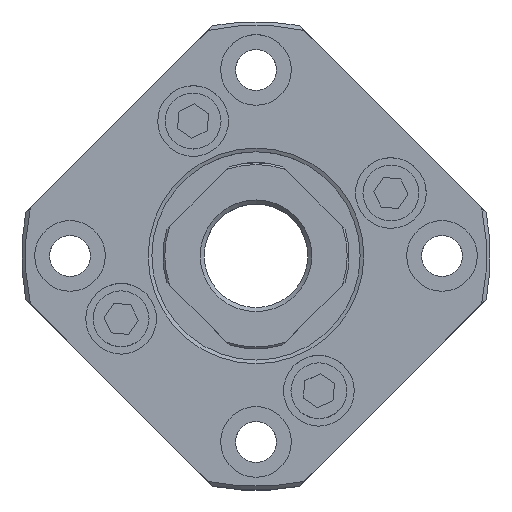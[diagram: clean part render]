
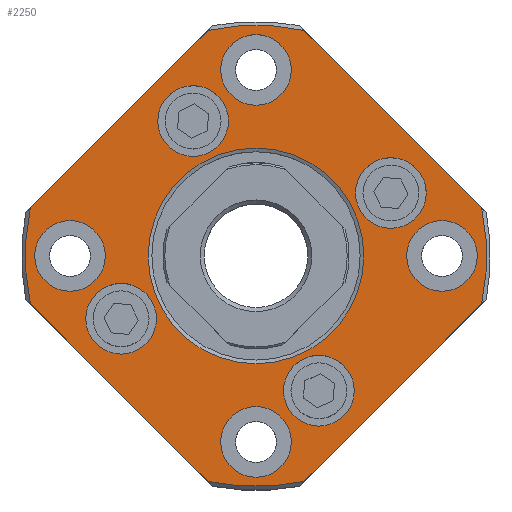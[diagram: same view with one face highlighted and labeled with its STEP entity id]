
A CAD part, top view. The second image highlights one B-rep face of the part: STEP entity #2250.
In plain terms, the highlighted planar face has unit normal (0, 0, 1) as drawn and (-1, 0, 0) by its records, which use the part's own axes.
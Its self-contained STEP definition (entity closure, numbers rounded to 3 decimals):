
#170=LINE('',#3469,#324);
#174=LINE('',#3488,#328);
#178=LINE('',#3507,#332);
#182=LINE('',#3526,#336);
#324=VECTOR('',#2750,1000.);
#328=VECTOR('',#2756,1000.);
#332=VECTOR('',#2762,1000.);
#336=VECTOR('',#2768,1000.);
#506=ORIENTED_EDGE('',*,*,#1110,.T.);
#507=ORIENTED_EDGE('',*,*,#1111,.T.);
#508=ORIENTED_EDGE('',*,*,#1112,.T.);
#509=ORIENTED_EDGE('',*,*,#1113,.T.);
#510=ORIENTED_EDGE('',*,*,#1114,.T.);
#511=ORIENTED_EDGE('',*,*,#1115,.T.);
#512=ORIENTED_EDGE('',*,*,#1116,.T.);
#513=ORIENTED_EDGE('',*,*,#1117,.T.);
#514=ORIENTED_EDGE('',*,*,#1118,.T.);
#515=ORIENTED_EDGE('',*,*,#1107,.F.);
#516=ORIENTED_EDGE('',*,*,#1119,.F.);
#517=ORIENTED_EDGE('',*,*,#1101,.F.);
#518=ORIENTED_EDGE('',*,*,#1120,.F.);
#519=ORIENTED_EDGE('',*,*,#1095,.F.);
#520=ORIENTED_EDGE('',*,*,#1121,.F.);
#521=ORIENTED_EDGE('',*,*,#1089,.F.);
#522=ORIENTED_EDGE('',*,*,#1122,.F.);
#1089=EDGE_CURVE('',#1391,#1392,#170,.T.);
#1095=EDGE_CURVE('',#1397,#1398,#174,.T.);
#1101=EDGE_CURVE('',#1403,#1404,#178,.T.);
#1107=EDGE_CURVE('',#1409,#1410,#182,.T.);
#1110=EDGE_CURVE('',#1412,#1412,#1588,.T.);
#1111=EDGE_CURVE('',#1413,#1413,#1589,.T.);
#1112=EDGE_CURVE('',#1414,#1414,#1590,.T.);
#1113=EDGE_CURVE('',#1415,#1415,#1591,.T.);
#1114=EDGE_CURVE('',#1416,#1416,#1592,.T.);
#1115=EDGE_CURVE('',#1417,#1417,#1593,.T.);
#1116=EDGE_CURVE('',#1418,#1418,#1594,.T.);
#1117=EDGE_CURVE('',#1419,#1419,#1595,.T.);
#1118=EDGE_CURVE('',#1420,#1420,#1596,.T.);
#1119=EDGE_CURVE('',#1404,#1409,#1597,.T.);
#1120=EDGE_CURVE('',#1398,#1403,#1598,.T.);
#1121=EDGE_CURVE('',#1392,#1397,#1599,.T.);
#1122=EDGE_CURVE('',#1410,#1391,#1600,.T.);
#1391=VERTEX_POINT('',#3468);
#1392=VERTEX_POINT('',#3470);
#1397=VERTEX_POINT('',#3487);
#1398=VERTEX_POINT('',#3489);
#1403=VERTEX_POINT('',#3506);
#1404=VERTEX_POINT('',#3508);
#1409=VERTEX_POINT('',#3525);
#1410=VERTEX_POINT('',#3527);
#1412=VERTEX_POINT('',#3536);
#1413=VERTEX_POINT('',#3538);
#1414=VERTEX_POINT('',#3540);
#1415=VERTEX_POINT('',#3542);
#1416=VERTEX_POINT('',#3544);
#1417=VERTEX_POINT('',#3546);
#1418=VERTEX_POINT('',#3548);
#1419=VERTEX_POINT('',#3550);
#1420=VERTEX_POINT('',#3552);
#1588=CIRCLE('',#2445,4.75);
#1589=CIRCLE('',#2446,4.75);
#1590=CIRCLE('',#2447,4.75);
#1591=CIRCLE('',#2448,4.75);
#1592=CIRCLE('',#2449,4.75);
#1593=CIRCLE('',#2450,4.75);
#1594=CIRCLE('',#2451,4.75);
#1595=CIRCLE('',#2452,4.75);
#1596=CIRCLE('',#2453,14.5);
#1597=CIRCLE('',#2454,31.);
#1598=CIRCLE('',#2455,31.);
#1599=CIRCLE('',#2456,31.);
#1600=CIRCLE('',#2457,31.);
#1710=EDGE_LOOP('',(#506));
#1711=EDGE_LOOP('',(#507));
#1712=EDGE_LOOP('',(#508));
#1713=EDGE_LOOP('',(#509));
#1714=EDGE_LOOP('',(#510));
#1715=EDGE_LOOP('',(#511));
#1716=EDGE_LOOP('',(#512));
#1717=EDGE_LOOP('',(#513));
#1718=EDGE_LOOP('',(#514));
#1719=EDGE_LOOP('',(#515,#516,#517,#518,#519,#520,#521,#522));
#1942=FACE_BOUND('',#1710,.T.);
#1943=FACE_BOUND('',#1711,.T.);
#1944=FACE_BOUND('',#1712,.T.);
#1945=FACE_BOUND('',#1713,.T.);
#1946=FACE_BOUND('',#1714,.T.);
#1947=FACE_BOUND('',#1715,.T.);
#1948=FACE_BOUND('',#1716,.T.);
#1949=FACE_BOUND('',#1717,.T.);
#1950=FACE_BOUND('',#1718,.T.);
#1951=FACE_BOUND('',#1719,.T.);
#2169=PLANE('',#2444);
#2250=ADVANCED_FACE('',(#1942,#1943,#1944,#1945,#1946,#1947,#1948,#1949,
#1950,#1951),#2169,.F.);
#2444=AXIS2_PLACEMENT_3D('',#3534,#2770,#2771);
#2445=AXIS2_PLACEMENT_3D('',#3535,#2772,#2773);
#2446=AXIS2_PLACEMENT_3D('',#3537,#2774,#2775);
#2447=AXIS2_PLACEMENT_3D('',#3539,#2776,#2777);
#2448=AXIS2_PLACEMENT_3D('',#3541,#2778,#2779);
#2449=AXIS2_PLACEMENT_3D('',#3543,#2780,#2781);
#2450=AXIS2_PLACEMENT_3D('',#3545,#2782,#2783);
#2451=AXIS2_PLACEMENT_3D('',#3547,#2784,#2785);
#2452=AXIS2_PLACEMENT_3D('',#3549,#2786,#2787);
#2453=AXIS2_PLACEMENT_3D('',#3551,#2788,#2789);
#2454=AXIS2_PLACEMENT_3D('',#3553,#2790,#2791);
#2455=AXIS2_PLACEMENT_3D('',#3554,#2792,#2793);
#2456=AXIS2_PLACEMENT_3D('',#3555,#2794,#2795);
#2457=AXIS2_PLACEMENT_3D('',#3556,#2796,#2797);
#2750=DIRECTION('',(0.,-0.707,-0.707));
#2756=DIRECTION('',(0.,0.707,-0.707));
#2762=DIRECTION('',(0.,0.707,0.707));
#2768=DIRECTION('',(0.,-0.707,0.707));
#2770=DIRECTION('',(1.,0.,0.));
#2771=DIRECTION('',(0.,0.,-1.));
#2772=DIRECTION('',(1.,0.,0.));
#2773=DIRECTION('',(0.,0.,-1.));
#2774=DIRECTION('',(1.,0.,0.));
#2775=DIRECTION('',(0.,0.,-1.));
#2776=DIRECTION('',(1.,0.,0.));
#2777=DIRECTION('',(0.,0.,-1.));
#2778=DIRECTION('',(1.,0.,0.));
#2779=DIRECTION('',(0.,0.,-1.));
#2780=DIRECTION('',(1.,0.,0.));
#2781=DIRECTION('',(0.,0.,-1.));
#2782=DIRECTION('',(1.,0.,0.));
#2783=DIRECTION('',(0.,0.,-1.));
#2784=DIRECTION('',(1.,0.,0.));
#2785=DIRECTION('',(0.,0.,-1.));
#2786=DIRECTION('',(1.,0.,0.));
#2787=DIRECTION('',(0.,0.,-1.));
#2788=DIRECTION('',(1.,0.,0.));
#2789=DIRECTION('',(0.,0.,-1.));
#2790=DIRECTION('',(1.,0.,0.));
#2791=DIRECTION('',(0.,0.,-1.));
#2792=DIRECTION('',(1.,0.,0.));
#2793=DIRECTION('',(0.,0.,-1.));
#2794=DIRECTION('',(1.,0.,0.));
#2795=DIRECTION('',(0.,0.,-1.));
#2796=DIRECTION('',(1.,0.,0.));
#2797=DIRECTION('',(0.,0.,-1.));
#3468=CARTESIAN_POINT('',(-15.,-6.447,30.322));
#3469=CARTESIAN_POINT('',(-15.,0.,36.77));
#3470=CARTESIAN_POINT('',(-15.,-30.322,6.447));
#3487=CARTESIAN_POINT('',(-15.,-30.322,-6.447));
#3488=CARTESIAN_POINT('',(-15.,-36.77,0.));
#3489=CARTESIAN_POINT('',(-15.,-6.447,-30.322));
#3506=CARTESIAN_POINT('',(-15.,6.447,-30.322));
#3507=CARTESIAN_POINT('',(-15.,0.,-36.77));
#3508=CARTESIAN_POINT('',(-15.,30.322,-6.447));
#3525=CARTESIAN_POINT('',(-15.,30.322,6.447));
#3526=CARTESIAN_POINT('',(-15.,36.77,0.));
#3527=CARTESIAN_POINT('',(-15.,6.447,30.322));
#3534=CARTESIAN_POINT('',(-15.,14.,0.));
#3535=CARTESIAN_POINT('',(-15.,-8.452,-18.126));
#3536=CARTESIAN_POINT('',(-15.,-8.452,-22.876));
#3537=CARTESIAN_POINT('',(-15.,8.452,18.126));
#3538=CARTESIAN_POINT('',(-15.,8.452,13.376));
#3539=CARTESIAN_POINT('',(-15.,-18.126,8.452));
#3540=CARTESIAN_POINT('',(-15.,-18.126,3.702));
#3541=CARTESIAN_POINT('',(-15.,18.126,-8.452));
#3542=CARTESIAN_POINT('',(-15.,18.126,-13.202));
#3543=CARTESIAN_POINT('',(-15.,0.,25.));
#3544=CARTESIAN_POINT('',(-15.,0.,20.25));
#3545=CARTESIAN_POINT('',(-15.,-25.,0.));
#3546=CARTESIAN_POINT('',(-15.,-25.,-4.75));
#3547=CARTESIAN_POINT('',(-15.,0.,-25.));
#3548=CARTESIAN_POINT('',(-15.,0.,-29.75));
#3549=CARTESIAN_POINT('',(-15.,25.,0.));
#3550=CARTESIAN_POINT('',(-15.,25.,-4.75));
#3551=CARTESIAN_POINT('',(-15.,0.,0.));
#3552=CARTESIAN_POINT('',(-15.,0.,-14.5));
#3553=CARTESIAN_POINT('',(-15.,0.,0.));
#3554=CARTESIAN_POINT('',(-15.,0.,0.));
#3555=CARTESIAN_POINT('',(-15.,0.,0.));
#3556=CARTESIAN_POINT('',(-15.,0.,0.));
